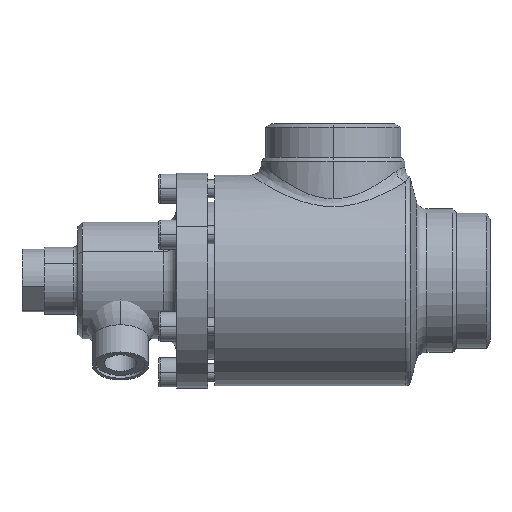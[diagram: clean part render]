
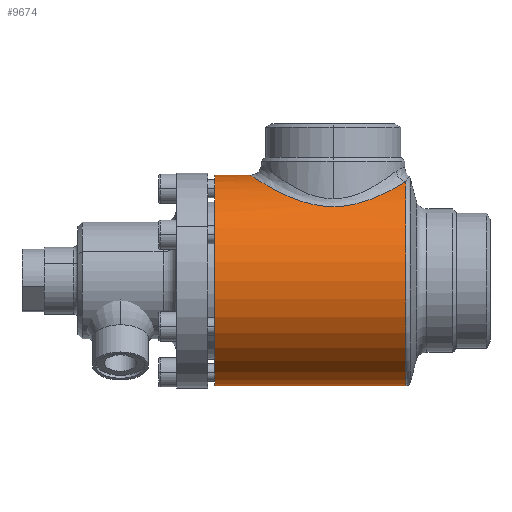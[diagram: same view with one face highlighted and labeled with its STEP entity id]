
A CAD part, left-side view. The second image highlights one B-rep face of the part: STEP entity #9674.
In plain terms, the highlighted cylindrical face has radius 47 mm (diameter 94 mm), a partial arc.
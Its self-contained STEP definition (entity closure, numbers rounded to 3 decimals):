
#174 = ORIENTED_EDGE ( 'NONE', *, *, #14521, .F. ) ;
#667 = ORIENTED_EDGE ( 'NONE', *, *, #9532, .T. ) ;
#1152 = EDGE_CURVE ( 'NONE', #1999, #9329, #9332, .T. ) ;
#1504 = ORIENTED_EDGE ( 'NONE', *, *, #1152, .T. ) ;
#1999 = VERTEX_POINT ( 'NONE', #3771 ) ;
#2213 = EDGE_CURVE ( 'NONE', #3525, #1999, #3937, .T. ) ;
#2566 = ORIENTED_EDGE ( 'NONE', *, *, #2213, .T. ) ;
#3219 = CARTESIAN_POINT ( 'NONE',  ( 0., 0., -47. ) ) ;
#3414 = LINE ( 'NONE', #3415, #3418 ) ;
#3415 = CARTESIAN_POINT ( 'NONE',  ( 0., -91., -47. ) ) ;
#3418 = VECTOR ( 'NONE', #3419, 1000. ) ;
#3419 = DIRECTION ( 'NONE',  ( 0., 1., 0. ) ) ;
#3525 = VERTEX_POINT ( 'NONE', #5166 ) ;
#3771 = CARTESIAN_POINT ( 'NONE',  ( -16.073, -85.446, 44.166 ) ) ;
#3937 = CIRCLE ( 'NONE', #3938, 47. ) ;
#3938 = AXIS2_PLACEMENT_3D ( 'NONE', #3939, #3940, #3942 ) ;
#3939 = CARTESIAN_POINT ( 'NONE',  ( 0., -85.446, 0. ) ) ;
#3940 = DIRECTION ( 'NONE',  ( 0., 1., 0. ) ) ;
#3942 = DIRECTION ( 'NONE',  ( 0., 0., -1. ) ) ;
#5166 = CARTESIAN_POINT ( 'NONE',  ( 0., -85.446, -47. ) ) ;
#5255 = CARTESIAN_POINT ( 'NONE',  ( 0., -16., 47. ) ) ;
#5394 = LINE ( 'NONE', #5395, #5396 ) ;
#5395 = CARTESIAN_POINT ( 'NONE',  ( 0., -91., 47. ) ) ;
#5396 = VECTOR ( 'NONE', #5397, 1000. ) ;
#5397 = DIRECTION ( 'NONE',  ( 0., 1., 0. ) ) ;
#5522 = FACE_OUTER_BOUND ( 'NONE', #9447, .T. ) ;
#5523 = CYLINDRICAL_SURFACE ( 'NONE', #5524, 47. ) ;
#5524 = AXIS2_PLACEMENT_3D ( 'NONE', #5525, #5526, #5527 ) ;
#5525 = CARTESIAN_POINT ( 'NONE',  ( 0., -91., 0. ) ) ;
#5526 = DIRECTION ( 'NONE',  ( 0., 1., 0. ) ) ;
#5527 = DIRECTION ( 'NONE',  ( 0., 0., 1. ) ) ;
#5833 = CIRCLE ( 'NONE', #5834, 47. ) ;
#5834 = AXIS2_PLACEMENT_3D ( 'NONE', #5835, #5836, #5837 ) ;
#5835 = CARTESIAN_POINT ( 'NONE',  ( 0., 0., 0. ) ) ;
#5836 = DIRECTION ( 'NONE',  ( 0., 1., 0. ) ) ;
#5837 = DIRECTION ( 'NONE',  ( 0., 0., 1. ) ) ;
#6070 = CARTESIAN_POINT ( 'NONE',  ( 0., 0., 47. ) ) ;
#9115 = ORIENTED_EDGE ( 'NONE', *, *, #11819, .F. ) ;
#9329 = VERTEX_POINT ( 'NONE', #5255 ) ;
#9332 = B_SPLINE_CURVE_WITH_KNOTS ( 'NONE', 3,
 ( #9333, #9334, #9335, #9336, #9337, #9338, #9339, #9340, #9341, #9342, #9343, #9344, #9345, #9346, #9347, #9348, #9349, #9350, #9351, #9352, #9353, #9354, #9355, #9356, #9357, #9358, #9359, #9360, #9361, #9362, #9363, #9364, #9365, #9366, #9367, #9368, #9369, #9370, #9371, #9372, #9373, #9374, #9375, #9376, #9377, #9378, #9379, #9380, #9381, #9382, #9383, #9384, #9385, #9386, #9387, #9388, #9389, #9390, #9391, #9392, #9393, #9396 ),
 .UNSPECIFIED., .F., .F.,
 ( 4, 2, 2, 2, 2, 2, 2, 2, 2, 2, 2, 2, 2, 2, 2, 2, 2, 2, 2, 2, 2, 2, 2, 2, 2, 2, 2, 2, 2, 2, 4 ),
 ( 0.017, 0.023, 0.026, 0.029, 0.035, 0.039, 0.04, 0.042, 0.048, 0.051, 0.052, 0.054, 0.06, 0.063, 0.066, 0.069, 0.072, 0.078, 0.081, 0.083, 0.084, 0.09, 0.093, 0.095, 0.096, 0.103, 0.106, 0.107, 0.109, 0.112, 0.115 ),
 .UNSPECIFIED. ) ;
#9333 = CARTESIAN_POINT ( 'NONE',  ( -16.073, -85.446, 44.166 ) ) ;
#9334 = CARTESIAN_POINT ( 'NONE',  ( -17.749, -84.43, 43.556 ) ) ;
#9335 = CARTESIAN_POINT ( 'NONE',  ( -19.293, -83.29, 42.887 ) ) ;
#9336 = CARTESIAN_POINT ( 'NONE',  ( -21.444, -81.41, 41.831 ) ) ;
#9337 = CARTESIAN_POINT ( 'NONE',  ( -22.133, -80.755, 41.469 ) ) ;
#9338 = CARTESIAN_POINT ( 'NONE',  ( -23.459, -79.389, 40.734 ) ) ;
#9339 = CARTESIAN_POINT ( 'NONE',  ( -24.096, -78.676, 40.359 ) ) ;
#9340 = CARTESIAN_POINT ( 'NONE',  ( -25.907, -76.48, 39.24 ) ) ;
#9341 = CARTESIAN_POINT ( 'NONE',  ( -26.989, -74.936, 38.497 ) ) ;
#9342 = CARTESIAN_POINT ( 'NONE',  ( -28.44, -72.491, 37.424 ) ) ;
#9343 = CARTESIAN_POINT ( 'NONE',  ( -28.894, -71.655, 37.073 ) ) ;
#9344 = CARTESIAN_POINT ( 'NONE',  ( -29.533, -70.366, 36.563 ) ) ;
#9345 = CARTESIAN_POINT ( 'NONE',  ( -29.739, -69.93, 36.396 ) ) ;
#9346 = CARTESIAN_POINT ( 'NONE',  ( -30.137, -69.047, 36.067 ) ) ;
#9347 = CARTESIAN_POINT ( 'NONE',  ( -30.328, -68.599, 35.906 ) ) ;
#9348 = CARTESIAN_POINT ( 'NONE',  ( -31.243, -66.344, 35.126 ) ) ;
#9349 = CARTESIAN_POINT ( 'NONE',  ( -31.842, -64.482, 34.576 ) ) ;
#9350 = CARTESIAN_POINT ( 'NONE',  ( -32.541, -61.591, 33.914 ) ) ;
#9351 = CARTESIAN_POINT ( 'NONE',  ( -32.74, -60.61, 33.721 ) ) ;
#9352 = CARTESIAN_POINT ( 'NONE',  ( -32.986, -59.111, 33.48 ) ) ;
#9353 = CARTESIAN_POINT ( 'NONE',  ( -33.059, -58.608, 33.408 ) ) ;
#9354 = CARTESIAN_POINT ( 'NONE',  ( -33.186, -57.603, 33.282 ) ) ;
#9355 = CARTESIAN_POINT ( 'NONE',  ( -33.239, -57.1, 33.229 ) ) ;
#9356 = CARTESIAN_POINT ( 'NONE',  ( -33.462, -54.583, 33.006 ) ) ;
#9357 = CARTESIAN_POINT ( 'NONE',  ( -33.49, -52.562, 32.976 ) ) ;
#9358 = CARTESIAN_POINT ( 'NONE',  ( -33.307, -49.52, 33.161 ) ) ;
#9359 = CARTESIAN_POINT ( 'NONE',  ( -33.207, -48.498, 33.262 ) ) ;
#9360 = CARTESIAN_POINT ( 'NONE',  ( -32.933, -46.49, 33.532 ) ) ;
#9361 = CARTESIAN_POINT ( 'NONE',  ( -32.761, -45.501, 33.702 ) ) ;
#9362 = CARTESIAN_POINT ( 'NONE',  ( -32.346, -43.55, 34.1 ) ) ;
#9363 = CARTESIAN_POINT ( 'NONE',  ( -32.103, -42.587, 34.33 ) ) ;
#9364 = CARTESIAN_POINT ( 'NONE',  ( -31.549, -40.688, 34.839 ) ) ;
#9365 = CARTESIAN_POINT ( 'NONE',  ( -31.237, -39.749, 35.121 ) ) ;
#9366 = CARTESIAN_POINT ( 'NONE',  ( -30.211, -37.009, 36.016 ) ) ;
#9367 = CARTESIAN_POINT ( 'NONE',  ( -29.406, -35.272, 36.683 ) ) ;
#9368 = CARTESIAN_POINT ( 'NONE',  ( -28.021, -32.781, 37.738 ) ) ;
#9369 = CARTESIAN_POINT ( 'NONE',  ( -27.529, -31.97, 38.099 ) ) ;
#9370 = CARTESIAN_POINT ( 'NONE',  ( -26.744, -30.781, 38.65 ) ) ;
#9371 = CARTESIAN_POINT ( 'NONE',  ( -26.475, -30.389, 38.835 ) ) ;
#9372 = CARTESIAN_POINT ( 'NONE',  ( -25.92, -29.615, 39.208 ) ) ;
#9373 = CARTESIAN_POINT ( 'NONE',  ( -25.634, -29.233, 39.396 ) ) ;
#9374 = CARTESIAN_POINT ( 'NONE',  ( -24.175, -27.357, 40.33 ) ) ;
#9375 = CARTESIAN_POINT ( 'NONE',  ( -22.902, -25.964, 41.072 ) ) ;
#9376 = CARTESIAN_POINT ( 'NONE',  ( -20.822, -24.029, 42.143 ) ) ;
#9377 = CARTESIAN_POINT ( 'NONE',  ( -20.099, -23.411, 42.494 ) ) ;
#9378 = CARTESIAN_POINT ( 'NONE',  ( -18.969, -22.523, 43.004 ) ) ;
#9379 = CARTESIAN_POINT ( 'NONE',  ( -18.584, -22.235, 43.172 ) ) ;
#9380 = CARTESIAN_POINT ( 'NONE',  ( -17.798, -21.671, 43.502 ) ) ;
#9381 = CARTESIAN_POINT ( 'NONE',  ( -17.396, -21.396, 43.664 ) ) ;
#9382 = CARTESIAN_POINT ( 'NONE',  ( -15.356, -20.064, 44.455 ) ) ;
#9383 = CARTESIAN_POINT ( 'NONE',  ( -13.635, -19.147, 45.018 ) ) ;
#9384 = CARTESIAN_POINT ( 'NONE',  ( -10.906, -18.006, 45.727 ) ) ;
#9385 = CARTESIAN_POINT ( 'NONE',  ( -9.972, -17.666, 45.94 ) ) ;
#9386 = CARTESIAN_POINT ( 'NONE',  ( -8.53, -17.219, 46.222 ) ) ;
#9387 = CARTESIAN_POINT ( 'NONE',  ( -8.041, -17.081, 46.31 ) ) ;
#9388 = CARTESIAN_POINT ( 'NONE',  ( -7.058, -16.829, 46.47 ) ) ;
#9389 = CARTESIAN_POINT ( 'NONE',  ( -6.563, -16.715, 46.542 ) ) ;
#9390 = CARTESIAN_POINT ( 'NONE',  ( -5.066, -16.41, 46.737 ) ) ;
#9391 = CARTESIAN_POINT ( 'NONE',  ( -4.049, -16.255, 46.836 ) ) ;
#9392 = CARTESIAN_POINT ( 'NONE',  ( -2.024, -16.051, 46.967 ) ) ;
#9393 = CARTESIAN_POINT ( 'NONE',  ( -1.011, -16., 47. ) ) ;
#9396 = CARTESIAN_POINT ( 'NONE',  ( 0., -16., 47. ) ) ;
#9447 = EDGE_LOOP ( 'NONE', ( #9115, #2566, #1504, #667, #174 ) ) ;
#9532 = EDGE_CURVE ( 'NONE', #9329, #10527, #5394, .T. ) ;
#9674 = ADVANCED_FACE ( 'NONE', ( #5522 ), #5523, .T. ) ;
#10527 = VERTEX_POINT ( 'NONE', #6070 ) ;
#11608 = VERTEX_POINT ( 'NONE', #3219 ) ;
#11819 = EDGE_CURVE ( 'NONE', #3525, #11608, #3414, .T. ) ;
#14521 = EDGE_CURVE ( 'NONE', #11608, #10527, #5833, .T. ) ;
